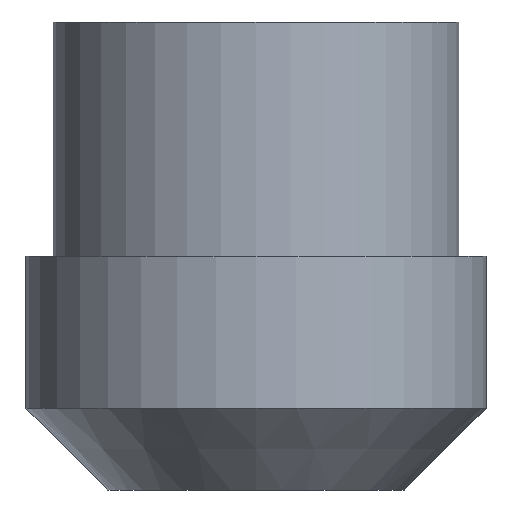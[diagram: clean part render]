
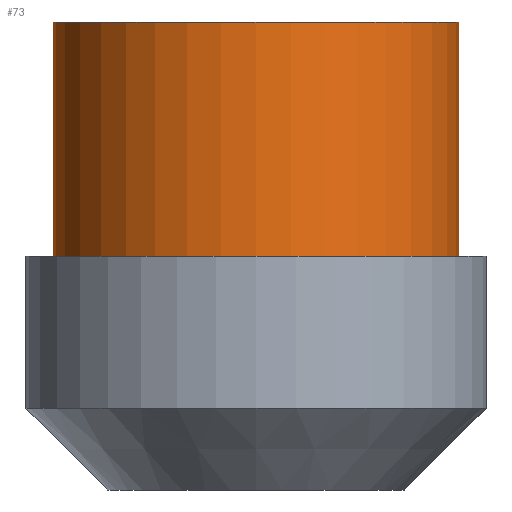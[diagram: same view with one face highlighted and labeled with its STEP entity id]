
A CAD part, front view. The second image highlights one B-rep face of the part: STEP entity #73.
In plain terms, the highlighted cylindrical face has radius 13 mm (diameter 26 mm), a partial arc.
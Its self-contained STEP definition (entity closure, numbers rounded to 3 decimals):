
#60=CYLINDRICAL_SURFACE('',#276,13.);
#73=ADVANCED_FACE('NONE',(#85),#60,.T.);
#85=FACE_OUTER_BOUND('',#103,.T.);
#103=EDGE_LOOP('',(#168,#169,#170,#171));
#113=CIRCLE('',#257,13.);
#117=CIRCLE('',#263,13.);
#168=ORIENTED_EDGE('',*,*,#215,.T.);
#169=ORIENTED_EDGE('',*,*,#212,.T.);
#170=ORIENTED_EDGE('',*,*,#209,.F.);
#171=ORIENTED_EDGE('',*,*,#214,.F.);
#190=VERTEX_POINT('',#381);
#191=VERTEX_POINT('',#382);
#192=VERTEX_POINT('',#387);
#193=VERTEX_POINT('',#389);
#209=EDGE_CURVE('NONE',#190,#191,#113,.T.);
#212=EDGE_CURVE('NONE',#192,#191,#230,.T.);
#214=EDGE_CURVE('NONE',#193,#190,#231,.T.);
#215=EDGE_CURVE('NONE',#193,#192,#117,.T.);
#230=LINE('',#386,#240);
#231=LINE('',#390,#241);
#240=VECTOR('',#313,1.);
#241=VECTOR('',#316,1.);
#257=AXIS2_PLACEMENT_3D('',#380,#305,#306);
#263=AXIS2_PLACEMENT_3D('',#392,#319,#320);
#276=AXIS2_PLACEMENT_3D('',#413,#349,#350);
#305=DIRECTION('',(0.,0.,1.));
#306=DIRECTION('',(-1.,0.,0.));
#313=DIRECTION('',(0.,0.,1.));
#316=DIRECTION('',(0.,0.,1.));
#319=DIRECTION('',(0.,0.,1.));
#320=DIRECTION('',(-1.,0.,0.));
#349=DIRECTION('',(0.,0.,1.));
#350=DIRECTION('',(-1.,0.,0.));
#380=CARTESIAN_POINT('',(0.,0.,0.));
#381=CARTESIAN_POINT('',(-13.,0.,0.));
#382=CARTESIAN_POINT('',(13.,0.,0.));
#386=CARTESIAN_POINT('',(13.,0.,-30.));
#387=CARTESIAN_POINT('',(13.,0.,-15.));
#389=CARTESIAN_POINT('',(-13.,0.,-15.));
#390=CARTESIAN_POINT('',(-13.,0.,-30.));
#392=CARTESIAN_POINT('',(0.,0.,-15.));
#413=CARTESIAN_POINT('',(0.,0.,-30.));
